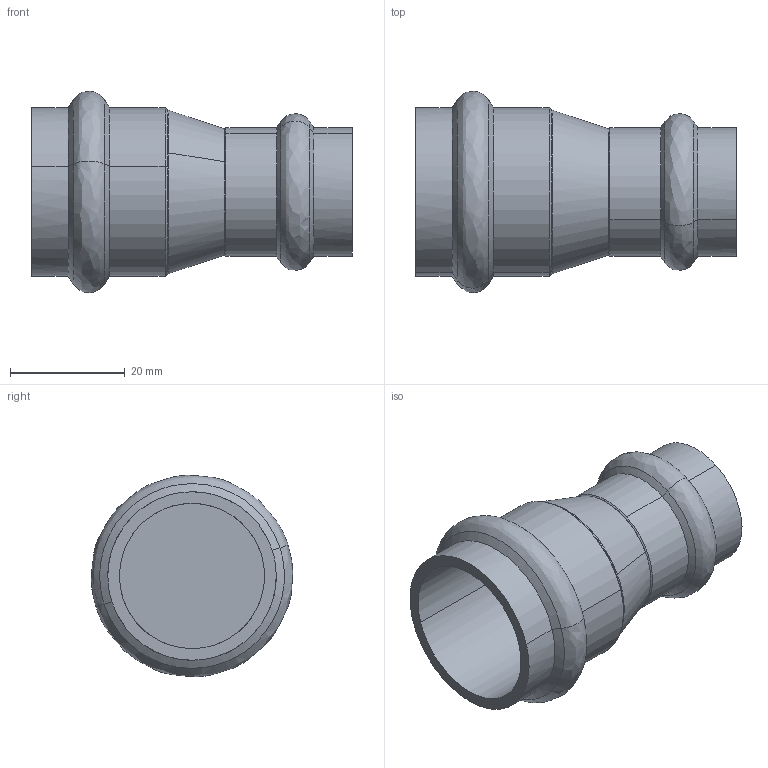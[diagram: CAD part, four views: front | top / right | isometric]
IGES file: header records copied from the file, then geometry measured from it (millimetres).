
Start section: 3D InterOp IGES (Version 25 0 1), Spatial Corp. Copyright (c) 1999-2007.
Global section: file name: pim0004375.igs; native system: Spatial Corp.; preprocessor: 3D InterOp ACIS/IGES; author: Cad-Pim; organization: TransMagic, Inc.; date: 20150430.131305; units: millimetre
Bounding box: 56 x 35.16 x 35.17 mm (x, y, z)
Volume: 14510.9 mm3; surface area: 9433.3 mm2
Topology: 1 solids, 1 shells, 36 faces, 98 edges, 66 vertices
Faces by surface type: bspline 14, cylinder 12, cone 10
